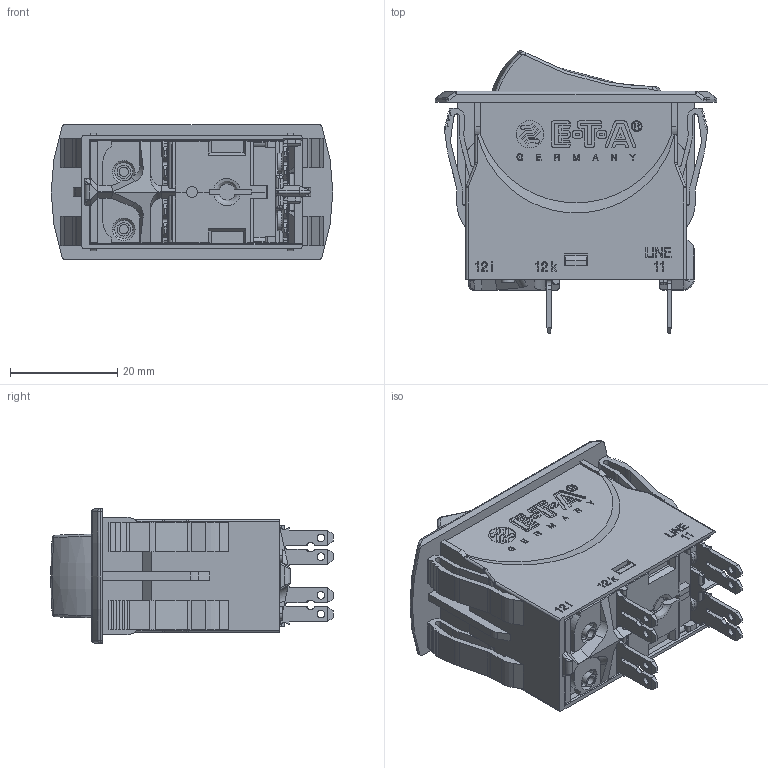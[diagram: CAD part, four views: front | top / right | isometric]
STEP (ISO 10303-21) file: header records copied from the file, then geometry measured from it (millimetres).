
FILE_DESCRIPTION((''),'2;1');
FILE_NAME('DUMMY-3120-N521-P7','2019-08-06T11:20:17',('wschmidt'),(''),'CREO PARAMETRIC BY PTC INC, 2017260','CREO PARAMETRIC BY PTC INC, 2017260','');
FILE_SCHEMA(('AUTOMOTIVE_DESIGN { 1 0 10303 214 1 1 1 1 }'));
Products named in the file (1): DUMMY-3120-N521-P7
Bounding box: 52.4 x 52.56 x 25 mm (x, y, z)
Volume: 29838.6 mm3; surface area: 18586.1 mm2
Topology: 1 solids, 2 shells, 1877 faces, 5150 edges, 3355 vertices
Faces by surface type: plane 1122, cylinder 320, extrusion 306, bspline 68, torus 36, cone 13, sphere 12
Entity records: 66932 total; most frequent: CARTESIAN_POINT 20603, ORIENTED_EDGE 10298, DIRECTION 7974, EDGE_CURVE 5149, VECTOR 3916, LINE 3610, VERTEX_POINT 3355, AXIS2_PLACEMENT_3D 2029
